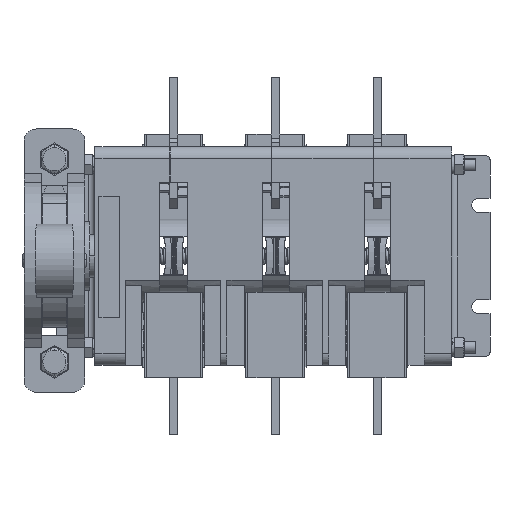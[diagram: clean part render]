
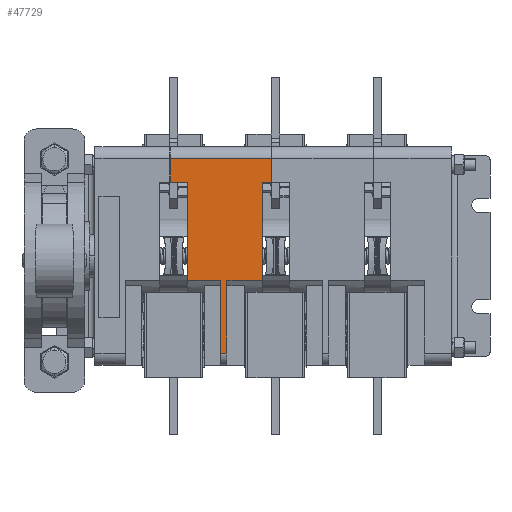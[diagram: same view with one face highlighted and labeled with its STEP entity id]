
A CAD part, front view. The second image highlights one B-rep face of the part: STEP entity #47729.
In plain terms, the highlighted planar face has unit normal (0, -1, 0) as drawn and (0, 1, 0) by its records, which use the part's own axes.
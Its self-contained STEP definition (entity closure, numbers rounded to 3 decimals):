
#933 = CARTESIAN_POINT ( 'NONE',  ( -12., 24., 49.423 ) ) ;
#1074 = ORIENTED_EDGE ( 'NONE', *, *, #44667, .F. ) ;
#1126 = ORIENTED_EDGE ( 'NONE', *, *, #25699, .F. ) ;
#1241 = FACE_OUTER_BOUND ( 'NONE', #58993, .T. ) ;
#1302 = ORIENTED_EDGE ( 'NONE', *, *, #1544, .F. ) ;
#1544 = EDGE_CURVE ( 'NONE', #62419, #64573, #49899, .T. ) ;
#2055 = DIRECTION ( 'NONE',  ( -1., 0., 0. ) ) ;
#2450 = CARTESIAN_POINT ( 'NONE',  ( -12., 24., -12.423 ) ) ;
#2999 = EDGE_CURVE ( 'NONE', #40464, #43619, #36505, .T. ) ;
#3010 = CARTESIAN_POINT ( 'NONE',  ( 36.5, 24., 0. ) ) ;
#3535 = VECTOR ( 'NONE', #18584, 1000. ) ;
#3560 = LINE ( 'NONE', #52892, #58013 ) ;
#3877 = CARTESIAN_POINT ( 'NONE',  ( 36.5, 24., 37. ) ) ;
#4313 = VECTOR ( 'NONE', #2055, 1000. ) ;
#4733 = DIRECTION ( 'NONE',  ( 1., 0., 0. ) ) ;
#6284 = DIRECTION ( 'NONE',  ( 0., 0., 1. ) ) ;
#6444 = EDGE_CURVE ( 'NONE', #8480, #50429, #30184, .T. ) ;
#6818 = CARTESIAN_POINT ( 'NONE',  ( 36.5, 24., 41.5 ) ) ;
#6951 = EDGE_CURVE ( 'NONE', #64573, #29398, #11242, .T. ) ;
#7724 = CARTESIAN_POINT ( 'NONE',  ( -48., 24., 19.5 ) ) ;
#8085 = EDGE_CURVE ( 'NONE', #43619, #29398, #21848, .T. ) ;
#8453 = LINE ( 'NONE', #23451, #4313 ) ;
#8480 = VERTEX_POINT ( 'NONE', #67982 ) ;
#11242 = LINE ( 'NONE', #7724, #12947 ) ;
#11548 = DIRECTION ( 'NONE',  ( 0., 0., -1. ) ) ;
#12275 = CARTESIAN_POINT ( 'NONE',  ( 36.5, 24., 37. ) ) ;
#12947 = VECTOR ( 'NONE', #44594, 1000. ) ;
#13398 = VERTEX_POINT ( 'NONE', #16437 ) ;
#14382 = ORIENTED_EDGE ( 'NONE', *, *, #6444, .F. ) ;
#14878 = CARTESIAN_POINT ( 'NONE',  ( 48., 24., -8.5 ) ) ;
#15134 = LINE ( 'NONE', #933, #61386 ) ;
#15289 = VECTOR ( 'NONE', #29428, 1000. ) ;
#15389 = EDGE_CURVE ( 'NONE', #8480, #26534, #59696, .T. ) ;
#16131 = CARTESIAN_POINT ( 'NONE',  ( -48., 24., 19.5 ) ) ;
#16437 = CARTESIAN_POINT ( 'NONE',  ( -12., 24., 37. ) ) ;
#18355 = CARTESIAN_POINT ( 'NONE',  ( 48., 24., 41.5 ) ) ;
#18584 = DIRECTION ( 'NONE',  ( 0., 0., 1. ) ) ;
#19248 = CARTESIAN_POINT ( 'NONE',  ( 48., 24., -8.5 ) ) ;
#20257 = LINE ( 'NONE', #3010, #15289 ) ;
#21478 = CARTESIAN_POINT ( 'NONE',  ( -12., 24., 0. ) ) ;
#21848 = LINE ( 'NONE', #68133, #59883 ) ;
#21901 = ORIENTED_EDGE ( 'NONE', *, *, #2999, .T. ) ;
#23451 = CARTESIAN_POINT ( 'NONE',  ( 36.5, 24., 41.5 ) ) ;
#23772 = CARTESIAN_POINT ( 'NONE',  ( -12., 24., 16.5 ) ) ;
#24015 = ORIENTED_EDGE ( 'NONE', *, *, #8085, .T. ) ;
#24506 = AXIS2_PLACEMENT_3D ( 'NONE', #56478, #46787, #24837 ) ;
#24837 = DIRECTION ( 'NONE',  ( 1., 0., 0. ) ) ;
#25582 = ORIENTED_EDGE ( 'NONE', *, *, #15389, .T. ) ;
#25699 = EDGE_CURVE ( 'NONE', #45231, #48838, #8453, .T. ) ;
#26534 = VERTEX_POINT ( 'NONE', #53254 ) ;
#28568 = VECTOR ( 'NONE', #4733, 1000. ) ;
#29398 = VERTEX_POINT ( 'NONE', #57718 ) ;
#29428 = DIRECTION ( 'NONE',  ( -1., 0., 0. ) ) ;
#30184 = LINE ( 'NONE', #14878, #28568 ) ;
#30345 = PLANE ( 'NONE',  #24506 ) ;
#30902 = DIRECTION ( 'NONE',  ( -1., 0., 0. ) ) ;
#32461 = VERTEX_POINT ( 'NONE', #12275 ) ;
#32476 = LINE ( 'NONE', #50692, #33330 ) ;
#33330 = VECTOR ( 'NONE', #40337, 1000. ) ;
#36505 = LINE ( 'NONE', #2450, #3535 ) ;
#37486 = CARTESIAN_POINT ( 'NONE',  ( -12., 24., 19.5 ) ) ;
#38699 = ORIENTED_EDGE ( 'NONE', *, *, #52262, .T. ) ;
#40337 = DIRECTION ( 'NONE',  ( 0., 0., -1. ) ) ;
#40442 = CARTESIAN_POINT ( 'NONE',  ( -48., 24., 19.5 ) ) ;
#40464 = VERTEX_POINT ( 'NONE', #21478 ) ;
#40700 = ORIENTED_EDGE ( 'NONE', *, *, #67771, .F. ) ;
#42148 = DIRECTION ( 'NONE',  ( -1., 0., 0. ) ) ;
#43619 = VERTEX_POINT ( 'NONE', #23772 ) ;
#44594 = DIRECTION ( 'NONE',  ( 0., 0., -1. ) ) ;
#44667 = EDGE_CURVE ( 'NONE', #32461, #13398, #63631, .T. ) ;
#45231 = VERTEX_POINT ( 'NONE', #18355 ) ;
#46787 = DIRECTION ( 'NONE',  ( 0., -1., 0. ) ) ;
#47729 = ADVANCED_FACE ( 'NONE', ( #1241 ), #30345, .F. ) ;
#48838 = VERTEX_POINT ( 'NONE', #6818 ) ;
#49187 = ORIENTED_EDGE ( 'NONE', *, *, #6951, .F. ) ;
#49899 = LINE ( 'NONE', #16131, #57285 ) ;
#50385 = VECTOR ( 'NONE', #61055, 1000. ) ;
#50429 = VERTEX_POINT ( 'NONE', #19248 ) ;
#50692 = CARTESIAN_POINT ( 'NONE',  ( 48., 24., 19.5 ) ) ;
#52262 = EDGE_CURVE ( 'NONE', #26534, #40464, #20257, .T. ) ;
#52892 = CARTESIAN_POINT ( 'NONE',  ( 36.5, 24., 41.5 ) ) ;
#53254 = CARTESIAN_POINT ( 'NONE',  ( 36.5, 24., 0. ) ) ;
#56478 = CARTESIAN_POINT ( 'NONE',  ( -48., 24., 19.5 ) ) ;
#57285 = VECTOR ( 'NONE', #42148, 1000. ) ;
#57718 = CARTESIAN_POINT ( 'NONE',  ( -48., 24., 16.5 ) ) ;
#58013 = VECTOR ( 'NONE', #63799, 1000. ) ;
#58993 = EDGE_LOOP ( 'NONE', ( #1302, #66974, #1074, #40700, #1126, #66527, #14382, #25582, #38699, #21901, #24015, #49187 ) ) ;
#59696 = LINE ( 'NONE', #64906, #62109 ) ;
#59883 = VECTOR ( 'NONE', #30902, 1000. ) ;
#60644 = EDGE_CURVE ( 'NONE', #13398, #62419, #15134, .T. ) ;
#60838 = EDGE_CURVE ( 'NONE', #45231, #50429, #32476, .T. ) ;
#61055 = DIRECTION ( 'NONE',  ( -1., 0., 0. ) ) ;
#61386 = VECTOR ( 'NONE', #11548, 1000. ) ;
#62109 = VECTOR ( 'NONE', #6284, 1000. ) ;
#62419 = VERTEX_POINT ( 'NONE', #37486 ) ;
#63631 = LINE ( 'NONE', #3877, #50385 ) ;
#63799 = DIRECTION ( 'NONE',  ( 0., 0., -1. ) ) ;
#64573 = VERTEX_POINT ( 'NONE', #40442 ) ;
#64906 = CARTESIAN_POINT ( 'NONE',  ( 36.5, 24., -8.5 ) ) ;
#66527 = ORIENTED_EDGE ( 'NONE', *, *, #60838, .T. ) ;
#66974 = ORIENTED_EDGE ( 'NONE', *, *, #60644, .F. ) ;
#67771 = EDGE_CURVE ( 'NONE', #48838, #32461, #3560, .T. ) ;
#67982 = CARTESIAN_POINT ( 'NONE',  ( 36.5, 24., -8.5 ) ) ;
#68133 = CARTESIAN_POINT ( 'NONE',  ( -48., 24., 16.5 ) ) ;
